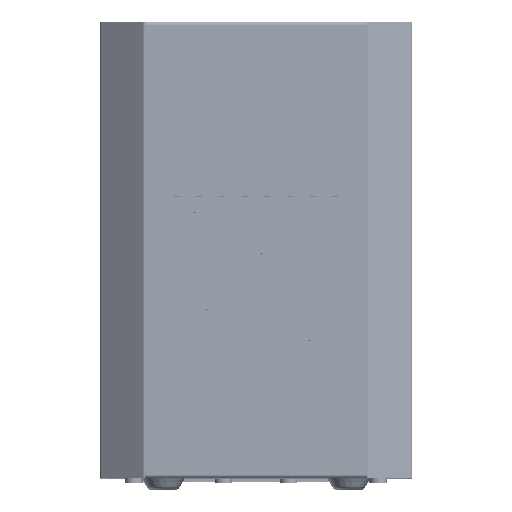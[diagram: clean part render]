
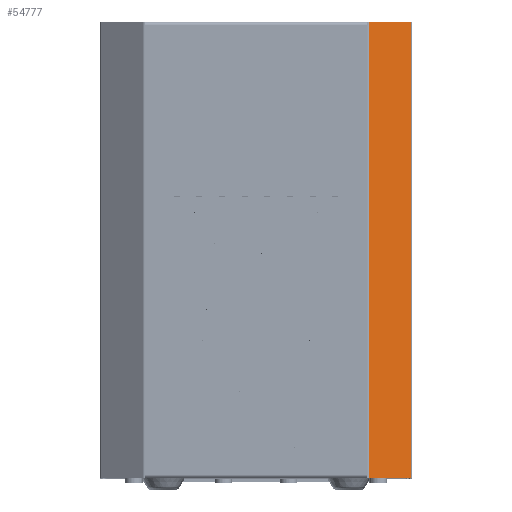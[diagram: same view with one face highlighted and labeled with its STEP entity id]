
A CAD part, top view. The second image highlights one B-rep face of the part: STEP entity #54777.
In plain terms, the highlighted planar face has unit normal (0.602, 0, 0.799).
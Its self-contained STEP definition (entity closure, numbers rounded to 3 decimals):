
#4466 = CARTESIAN_POINT ( 'NONE',  ( 51.901, 104.5, 0.698 ) ) ;
#5690 = VECTOR ( 'NONE', #123773, 1000. ) ;
#6984 = VECTOR ( 'NONE', #22653, 1000. ) ;
#14864 = DIRECTION ( 'NONE',  ( 0., -1., 0. ) ) ;
#19311 = LINE ( 'NONE', #190522, #123510 ) ;
#22653 = DIRECTION ( 'NONE',  ( 0.799, 0., -0.602 ) ) ;
#25336 = EDGE_CURVE ( 'NONE', #218452, #81464, #19311, .T. ) ;
#28242 = ORIENTED_EDGE ( 'NONE', *, *, #180129, .T. ) ;
#33777 = VERTEX_POINT ( 'NONE', #198029 ) ;
#36190 = DIRECTION ( 'NONE',  ( 0., -1., 0. ) ) ;
#46642 = VERTEX_POINT ( 'NONE', #132233 ) ;
#54022 = ORIENTED_EDGE ( 'NONE', *, *, #146895, .F. ) ;
#54777 = ADVANCED_FACE ( 'NONE', ( #186490 ), #169896, .T. ) ;
#77325 = AXIS2_PLACEMENT_3D ( 'NONE', #156593, #121257, #36190 ) ;
#78991 = LINE ( 'NONE', #166242, #193431 ) ;
#81464 = VERTEX_POINT ( 'NONE', #163463 ) ;
#103914 = LINE ( 'NONE', #4466, #5690 ) ;
#105577 = LINE ( 'NONE', #156371, #6984 ) ;
#113171 = ORIENTED_EDGE ( 'NONE', *, *, #204684, .T. ) ;
#121257 = DIRECTION ( 'NONE',  ( 0.602, 0., 0.799 ) ) ;
#123510 = VECTOR ( 'NONE', #171758, 1000. ) ;
#123773 = DIRECTION ( 'NONE',  ( 0., -1., 0. ) ) ;
#132233 = CARTESIAN_POINT ( 'NONE',  ( 70.903, -104.5, -13.621 ) ) ;
#146895 = EDGE_CURVE ( 'NONE', #218452, #46642, #78991, .T. ) ;
#156371 = CARTESIAN_POINT ( 'NONE',  ( 51.901, -104.5, 0.698 ) ) ;
#156593 = CARTESIAN_POINT ( 'NONE',  ( 51.5, -104.5, 1. ) ) ;
#163463 = CARTESIAN_POINT ( 'NONE',  ( 51.901, 104.5, 0.698 ) ) ;
#166242 = CARTESIAN_POINT ( 'NONE',  ( 70.903, 104.5, -13.621 ) ) ;
#168105 = ORIENTED_EDGE ( 'NONE', *, *, #25336, .T. ) ;
#169896 = PLANE ( 'NONE',  #77325 ) ;
#171758 = DIRECTION ( 'NONE',  ( -0.799, 0., 0.602 ) ) ;
#180129 = EDGE_CURVE ( 'NONE', #81464, #33777, #103914, .T. ) ;
#186490 = FACE_OUTER_BOUND ( 'NONE', #186937, .T. ) ;
#186937 = EDGE_LOOP ( 'NONE', ( #54022, #168105, #28242, #113171 ) ) ;
#190522 = CARTESIAN_POINT ( 'NONE',  ( 70.903, 104.5, -13.621 ) ) ;
#193431 = VECTOR ( 'NONE', #14864, 1000. ) ;
#198029 = CARTESIAN_POINT ( 'NONE',  ( 51.901, -104.5, 0.698 ) ) ;
#201584 = CARTESIAN_POINT ( 'NONE',  ( 70.903, 104.5, -13.621 ) ) ;
#204684 = EDGE_CURVE ( 'NONE', #33777, #46642, #105577, .T. ) ;
#218452 = VERTEX_POINT ( 'NONE', #201584 ) ;
